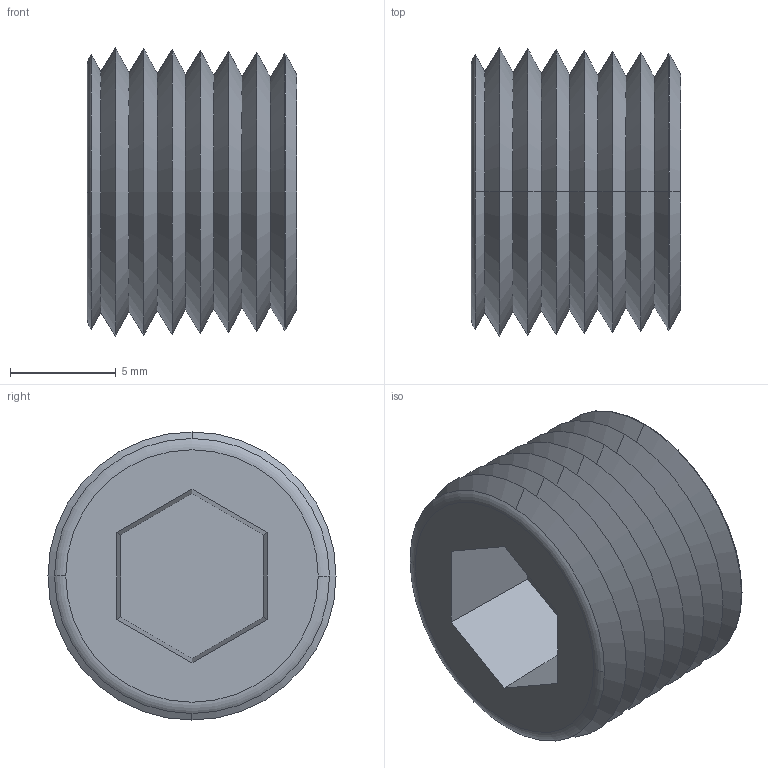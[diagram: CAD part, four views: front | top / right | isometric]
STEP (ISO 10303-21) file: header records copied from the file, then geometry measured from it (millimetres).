
FILE_DESCRIPTION((''),'2;1');
FILE_NAME('C:\Documents and Settings\Administrator\My Documents\Andys Backup Data\ANDY''S INVENTOR\INVENTOR LIBRARIES\MINITEC INVENTOR LIBRARIES\PNEUMATIC CONNECTIONS\A PACKED FILES\STEP FILES\21.1104 PLUG G 1-4.stp','2010-07-06T11:04:45',('Administrator'),(''),'Autodesk Inventor 2009','Autodesk Inventor 2009','');
FILE_SCHEMA(('CONFIG_CONTROL_DESIGN'));
Length unit declared in the file: millimetre
Products named in the file (1): 21.1104 PLUG G 1-4
Bounding box: 9.91 x 13.63 x 13.63 mm (x, y, z)
Volume: 964.5 mm3; surface area: 1093.5 mm2
Topology: 1 solids, 1 shells, 43 faces, 94 edges, 54 vertices
Faces by surface type: cone 30, plane 9, torus 4
Entity records: 1183 total; most frequent: DIRECTION 228, CARTESIAN_POINT 192, ORIENTED_EDGE 188, EDGE_CURVE 94, AXIS2_PLACEMENT_3D 90, VERTEX_POINT 54, VECTOR 48, LINE 48
